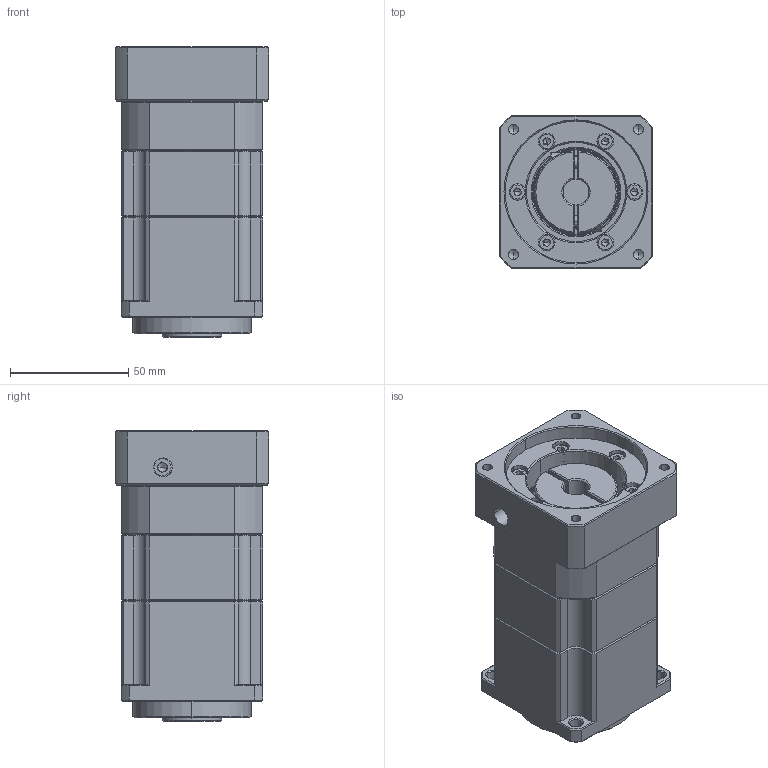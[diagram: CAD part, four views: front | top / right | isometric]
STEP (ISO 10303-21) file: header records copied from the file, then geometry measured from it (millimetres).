
FILE_DESCRIPTION (( 'STEP AP214' ), '1' );
FILE_NAME ('ZPB060-K16-L2-P1-11-60-75-M5.step', '2024-04-24T07:35:56', ( '' ), ( '' ), 'SwSTEP 2.0', 'SolidWorks 2016', '' );
FILE_SCHEMA (( 'AUTOMOTIVE_DESIGN' ));
Length unit declared in the file: millimetre
Products named in the file (1): ZPB060-K16-L2-P1-11-60-75-M5
Bounding box: 65 x 65 x 123 mm (x, y, z)
Volume: 351025.8 mm3; surface area: 79690.2 mm2
Topology: 16 solids, 17 shells, 2017 faces, 5647 edges, 3644 vertices
Faces by surface type: plane 1077, bspline 366, cylinder 261, cone 171, torus 96, sphere 46
Entity records: 102706 total; most frequent: CARTESIAN_POINT 31796, ORIENTED_EDGE 10992, DIRECTION 8585, EDGE_CURVE 5496, VERTEX_POINT 3575, VECTOR 3319, LINE 3319, AXIS2_PLACEMENT_3D 2633
